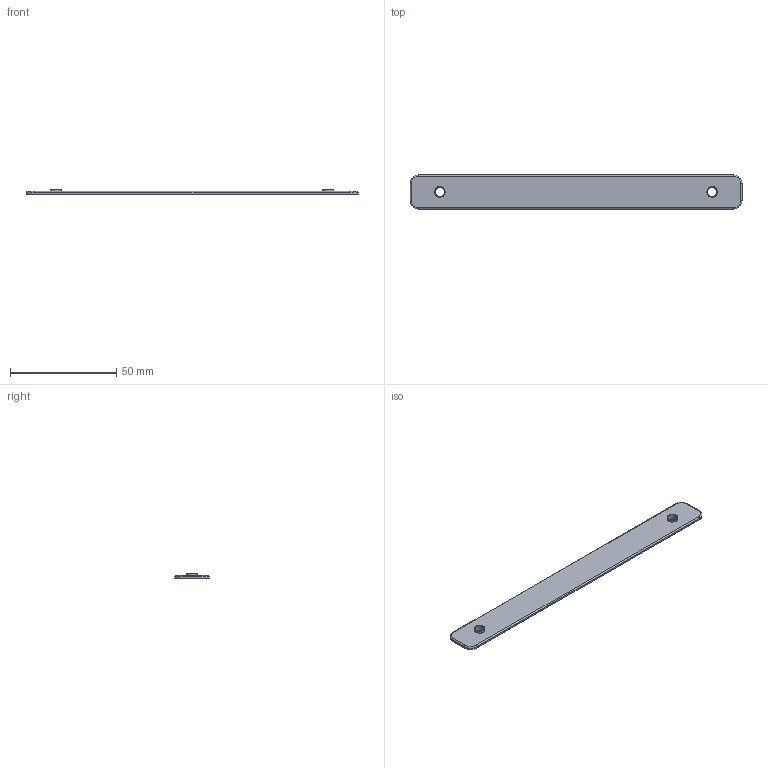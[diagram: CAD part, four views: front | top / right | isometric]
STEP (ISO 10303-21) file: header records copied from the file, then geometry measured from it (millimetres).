
FILE_DESCRIPTION(('Open CASCADE Model'),'2;1');
FILE_NAME('W-BAR-WL128-16','2026-10-19T21:23:52',('Author'),( 'Open CASCADE'),'Open CASCADE STEP processor 8.0','build123d', 'Unknown');
FILE_SCHEMA(('AUTOMOTIVE_DESIGN { 1 0 10303 214 1 1 1 1 }'));
Length unit declared in the file: millimetre
Products named in the file (2): W-BAR-WL128-16; brass_WL128-16__w
Assembly tree (1 placements, depth 2):
  W-BAR-WL128-16
    brass_WL128-16__w
Bounding box: 156 x 16 x 2.49 mm (x, y, z)
Volume: 3657.2 mm3; surface area: 5384 mm2
Topology: 1 solids, 1 shells, 32 faces, 68 edges, 40 vertices
Faces by surface type: plane 12, cylinder 12, cone 4, torus 4
Full cylindrical faces by diameter (mm): 4.3 x2, 5 x2
Entity records: 1768 total; most frequent: CARTESIAN_POINT 358, DIRECTION 264, ORIENTED_EDGE 136, PCURVE 136, DEFINITIONAL_REPRESENTATION 136, LINE 124, VECTOR 124, EDGE_CURVE 68
